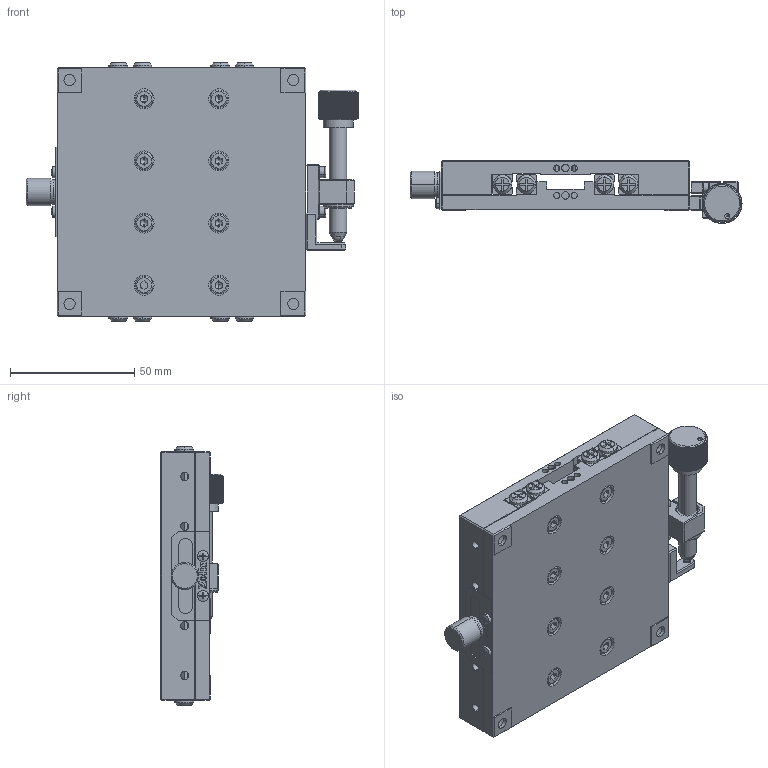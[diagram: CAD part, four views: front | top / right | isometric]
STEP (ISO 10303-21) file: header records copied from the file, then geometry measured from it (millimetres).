
FILE_DESCRIPTION (( 'STEP AP203' ), '1' );
FILE_NAME ('AK25-10020RZ.step', '2019-05-08T06:35:33', ( '' ), ( '' ), 'SwSTEP 2.0', 'SolidWorks 2017', '' );
FILE_SCHEMA (( 'CONFIG_CONTROL_DESIGN' ));
Products named in the file (1): AK25-10020RZ
Bounding box: 133.5 x 25.2 x 104 mm (x, y, z)
Surface area: 70427.1 mm2 (no closed solid volume)
Topology: 0 solids, 48 shells, 1284 faces, 3964 edges, 2592 vertices
Faces by surface type: plane 751, cylinder 310, cone 175, torus 42, sphere 6
Entity records: 44594 total; most frequent: CARTESIAN_POINT 10097, DIRECTION 7074, ORIENTED_EDGE 6753, EDGE_CURVE 3924, VERTEX_POINT 2592, AXIS2_PLACEMENT_3D 2426, LINE 2222, VECTOR 2222
